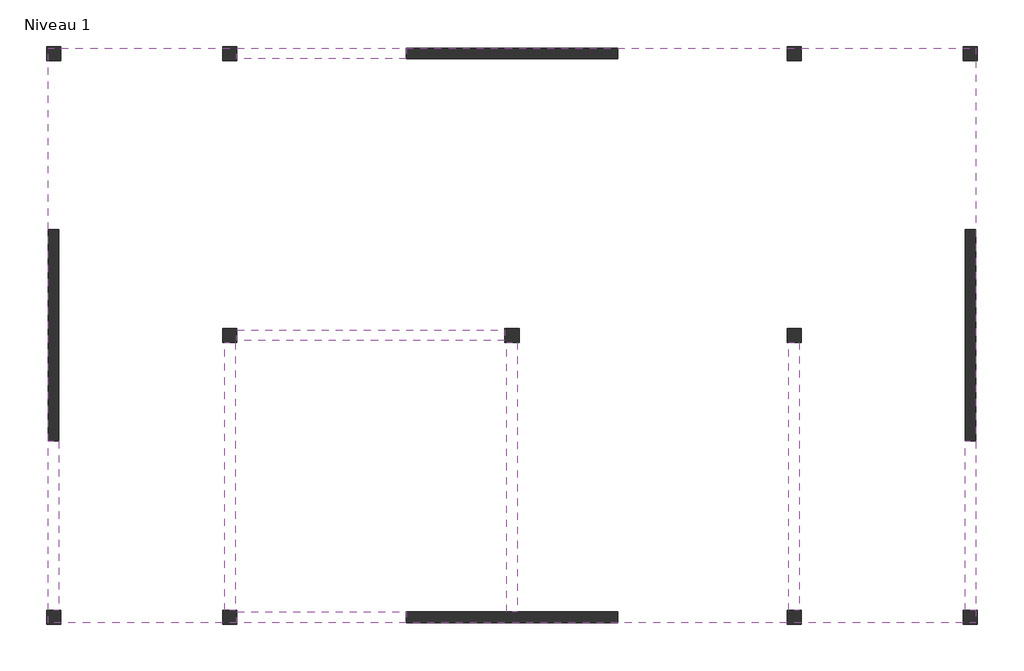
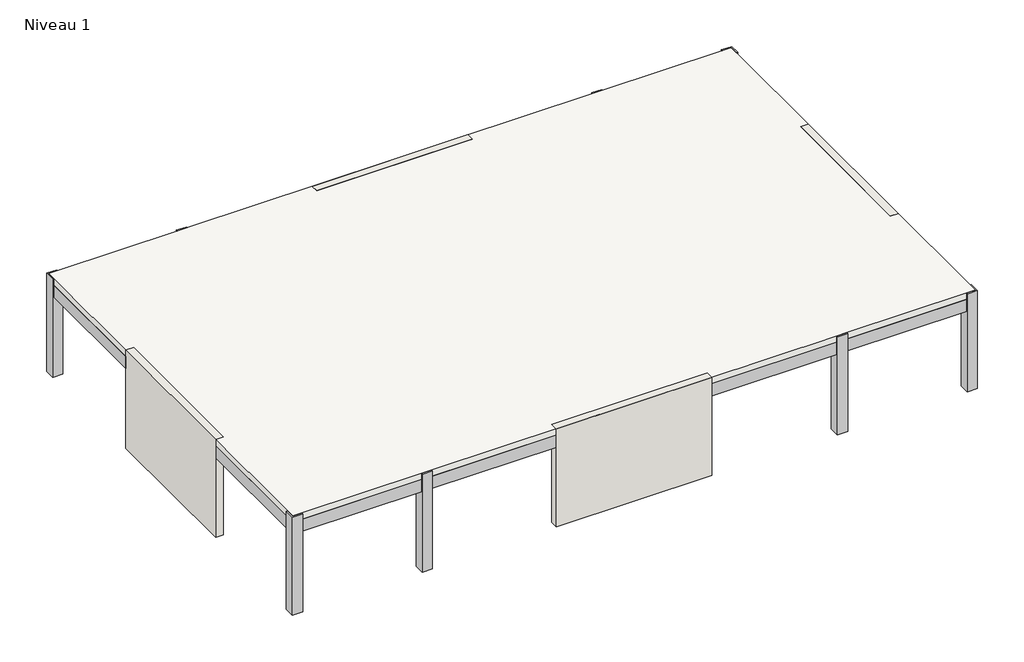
# One storey: 11 columns, 8 beams, 4 walls, 1 slab.
"""IFC4 building model written with IfcOpenShell, lengths in millimetres."""

from ifc_helpers import new_model, si_unit, frame, origin, place, context, project, spatial, polyline, outline, extrude, faceted_brep, element, save

model = new_model("IFC4")

# Units and contexts
model_context = context("Model", 3, world=origin())
ifc_project = project(units=[si_unit("LENGTHUNIT", "METRE", prefix="MILLI")], contexts=[model_context])

# Site, building, storey
site = spatial("IfcSite", under=ifc_project)
building = spatial("IfcBuilding", under=site)
storey = spatial("IfcBuildingStorey", under=building, Name="Niveau 1", Elevation=4000.0)

# Beams
placement = place(None, origin())
element("IfcBeam", 1, ObjectType="Poutre rectangulaire - Béton : 300 x 750 mm", at=placement, inside=storey, context=model_context, shape_type="SweptSolid", body=[
    extrude(outline(polyline([(-16808.6650278, 7952.7596515), (-16508.6650278, 7952.7596515), (-16508.6650278, 3152.7596515), (-16808.6650278, 3152.7596515), (-16808.6650278, 7952.7596515)])), frame((0.0, 0.0, 7250.0), z_axis=(0.0, 0.0, 1.0), x_axis=(1.0, 0.0, 0.0)), (0.0, 0.0, 1.0), 500.0),
    extrude(outline(polyline([(-16508.6650278, -7647.2403485), (-16808.6650278, -7647.2403485), (-16808.6650278, -2847.2403485), (-16508.6650278, -2847.2403485), (-16508.6650278, -7647.2403485)])), frame((0.0, 0.0, 7250.0), z_axis=(0.0, 0.0, 1.0), x_axis=(1.0, 0.0, 0.0)), (0.0, 0.0, 1.0), 500.0),
])
element("IfcBeam", 2, ObjectType="Poutre rectangulaire - Béton : 300 x 750 mm", at=placement, inside=storey, context=model_context, shape_type="SweptSolid", body=[
    extrude(outline(polyline([(-11808.6650278, 7952.7596515), (-11508.6650278, 7952.7596515), (-11508.6650278, 352.7596515), (-11808.6650278, 352.7596515), (-11808.6650278, 7952.7596515)])), frame((0.0, 0.0, 7250.0), z_axis=(0.0, 0.0, 1.0), x_axis=(1.0, 0.0, 0.0)), (0.0, 0.0, 1.0), 500.0),
    extrude(outline(polyline([(-11808.6650278, -47.2403485), (-11508.6650278, -47.2403485), (-11508.6650278, -7647.2403485), (-11808.6650278, -7647.2403485), (-11808.6650278, -47.2403485)])), frame((0.0, 0.0, 7250.0), z_axis=(0.0, 0.0, 1.0), x_axis=(1.0, 0.0, 0.0)), (0.0, 0.0, 1.0), 500.0),
])
element("IfcBeam", 3, ObjectType="Poutre rectangulaire - Béton : 300 x 750 mm", at=placement, inside=storey, context=model_context, shape_type="SweptSolid", body=[
    extrude(outline(polyline([(4491.3349722, 352.7596515), (4191.3349722, 352.7596515), (4191.3349722, 7952.7596515), (4491.3349722, 7952.7596515), (4491.3349722, 352.7596515)])), frame((0.0, 0.0, 7250.0), z_axis=(0.0, 0.0, 1.0), x_axis=(1.0, 0.0, 0.0)), (0.0, 0.0, 1.0), 500.0),
    extrude(outline(polyline([(4491.3349722, -7647.2403485), (4191.3349722, -7647.2403485), (4191.3349722, -47.2403485), (4491.3349722, -47.2403485), (4491.3349722, -7647.2403485)])), frame((0.0, 0.0, 7250.0), z_axis=(0.0, 0.0, 1.0), x_axis=(1.0, 0.0, 0.0)), (0.0, 0.0, 1.0), 500.0),
])
element("IfcBeam", 4, ObjectType="Poutre rectangulaire - Béton : 300 x 750 mm", at=placement, inside=storey, context=model_context, shape_type="SweptSolid", body=[
    extrude(outline(polyline([(9191.3349722, 7952.7596515), (9491.3349722, 7952.7596515), (9491.3349722, 3152.7596515), (9191.3349722, 3152.7596515), (9191.3349722, 7952.7596515)])), frame((0.0, 0.0, 7250.0), z_axis=(0.0, 0.0, 1.0), x_axis=(1.0, 0.0, 0.0)), (0.0, 0.0, 1.0), 500.0),
    extrude(outline(polyline([(9491.3349722, -7647.2403485), (9191.3349722, -7647.2403485), (9191.3349722, -2847.2403485), (9491.3349722, -2847.2403485), (9491.3349722, -7647.2403485)])), frame((0.0, 0.0, 7250.0), z_axis=(0.0, 0.0, 1.0), x_axis=(1.0, 0.0, 0.0)), (0.0, 0.0, 1.0), 500.0),
])
element("IfcBeam", 5, ObjectType="Poutre rectangulaire - Béton : 300 x 750 mm", at=placement, inside=storey, context=model_context, shape_type="SweptSolid", body=[
    extrude(outline(polyline([(9191.3349722, 302.7596515), (9191.3349722, 2.7596515), (4541.3349722, 2.7596515), (4541.3349722, 302.7596515), (9191.3349722, 302.7596515)])), frame((0.0, 0.0, 7250.0), z_axis=(0.0, 0.0, 1.0), x_axis=(1.0, 0.0, 0.0)), (0.0, 0.0, 1.0), 500.0),
    extrude(outline(polyline([(-16508.6650278, 2.7596515), (-16508.6650278, 302.7596515), (-11858.6650278, 302.7596515), (-11858.6650278, 2.7596515), (-16508.6650278, 2.7596515)])), frame((0.0, 0.0, 7250.0), z_axis=(0.0, 0.0, 1.0), x_axis=(1.0, 0.0, 0.0)), (0.0, 0.0, 1.0), 500.0),
    extrude(outline(polyline([(-11458.6650278, 2.7596515), (-11458.6650278, 302.7596515), (-3858.6650278, 302.7596515), (-3858.6650278, 2.7596515), (-11458.6650278, 2.7596515)])), frame((0.0, 0.0, 7250.0), z_axis=(0.0, 0.0, 1.0), x_axis=(1.0, 0.0, 0.0)), (0.0, 0.0, 1.0), 500.0),
    extrude(outline(polyline([(-3458.6650278, 2.7596515), (-3458.6650278, 302.7596515), (4141.3349722, 302.7596515), (4141.3349722, 2.7596515), (-3458.6650278, 2.7596515)])), frame((0.0, 0.0, 7250.0), z_axis=(0.0, 0.0, 1.0), x_axis=(1.0, 0.0, 0.0)), (0.0, 0.0, 1.0), 500.0),
])
element("IfcBeam", 6, ObjectType="Poutre rectangulaire - Béton : 300 x 750 mm", at=placement, inside=storey, context=model_context, shape_type="SweptSolid", body=[
    extrude(outline(polyline([(-3508.6650278, 8002.7596515), (-3508.6650278, 352.7596515), (-3808.6650278, 352.7596515), (-3808.6650278, 8002.7596515), (-3508.6650278, 8002.7596515)])), frame((0.0, 0.0, 7250.0), z_axis=(0.0, 0.0, 1.0), x_axis=(1.0, 0.0, 0.0)), (0.0, 0.0, 1.0), 500.0),
    extrude(outline(polyline([(-3508.6650278, -47.2403485), (-3508.6650278, -7697.2403485), (-3808.6650278, -7697.2403485), (-3808.6650278, -47.2403485), (-3508.6650278, -47.2403485)])), frame((0.0, 0.0, 7250.0), z_axis=(0.0, 0.0, 1.0), x_axis=(1.0, 0.0, 0.0)), (0.0, 0.0, 1.0), 500.0),
])
element("IfcBeam", 7, ObjectType="Poutre rectangulaire - Béton : 300 x 750 mm", at=placement, inside=storey, context=model_context, shape_type="SweptSolid", body=[
    extrude(outline(polyline([(-16458.6650278, -7997.2403485), (-16458.6650278, -7697.2403485), (-11858.6650278, -7697.2403485), (-11858.6650278, -7997.2403485), (-16458.6650278, -7997.2403485)])), frame((0.0, 0.0, 7250.0), z_axis=(0.0, 0.0, 1.0), x_axis=(1.0, 0.0, 0.0)), (0.0, 0.0, 1.0), 500.0),
    extrude(outline(polyline([(-11458.6650278, -7997.2403485), (-11458.6650278, -7697.2403485), (-6658.6650278, -7697.2403485), (-6658.6650278, -7997.2403485), (-11458.6650278, -7997.2403485)])), frame((0.0, 0.0, 7250.0), z_axis=(0.0, 0.0, 1.0), x_axis=(1.0, 0.0, 0.0)), (0.0, 0.0, 1.0), 500.0),
    extrude(outline(polyline([(9141.3349722, -7997.2403485), (4541.3349722, -7997.2403485), (4541.3349722, -7697.2403485), (9141.3349722, -7697.2403485), (9141.3349722, -7997.2403485)])), frame((0.0, 0.0, 7250.0), z_axis=(0.0, 0.0, 1.0), x_axis=(1.0, 0.0, 0.0)), (0.0, 0.0, 1.0), 500.0),
    extrude(outline(polyline([(4141.3349722, -7697.2403485), (4141.3349722, -7997.2403485), (-658.6650278, -7997.2403485), (-658.6650278, -7697.2403485), (4141.3349722, -7697.2403485)])), frame((0.0, 0.0, 7250.0), z_axis=(0.0, 0.0, 1.0), x_axis=(1.0, 0.0, 0.0)), (0.0, 0.0, 1.0), 500.0),
])
element("IfcBeam", 8, ObjectType="Poutre rectangulaire - Béton : 300 x 750 mm", at=placement, inside=storey, context=model_context, shape_type="SweptSolid", body=[
    extrude(outline(polyline([(-11858.6650278, 8002.7596515), (-16458.6650278, 8002.7596515), (-16458.6650278, 8302.7596515), (-11858.6650278, 8302.7596515), (-11858.6650278, 8002.7596515)])), frame((0.0, 0.0, 7250.0), z_axis=(0.0, 0.0, 1.0), x_axis=(1.0, 0.0, 0.0)), (0.0, 0.0, 1.0), 500.0),
    extrude(outline(polyline([(-11458.6650278, 8002.7596515), (-11458.6650278, 8302.7596515), (-6658.6650278, 8302.7596515), (-6658.6650278, 8002.7596515), (-11458.6650278, 8002.7596515)])), frame((0.0, 0.0, 7250.0), z_axis=(0.0, 0.0, 1.0), x_axis=(1.0, 0.0, 0.0)), (0.0, 0.0, 1.0), 500.0),
    extrude(outline(polyline([(9141.3349722, 8002.7596515), (4541.3349722, 8002.7596515), (4541.3349722, 8302.7596515), (9141.3349722, 8302.7596515), (9141.3349722, 8002.7596515)])), frame((0.0, 0.0, 7250.0), z_axis=(0.0, 0.0, 1.0), x_axis=(1.0, 0.0, 0.0)), (0.0, 0.0, 1.0), 500.0),
    extrude(outline(polyline([(4141.3349722, 8302.7596515), (4141.3349722, 8002.7596515), (-658.6650278, 8002.7596515), (-658.6650278, 8302.7596515), (4141.3349722, 8302.7596515)])), frame((0.0, 0.0, 7250.0), z_axis=(0.0, 0.0, 1.0), x_axis=(1.0, 0.0, 0.0)), (0.0, 0.0, 1.0), 500.0),
])

# Columns
element("IfcColumn", 9, ObjectType="Poteau béton - Carré : 400 mm x 400 mm", at=placement, inside=storey, context=model_context, shape_type="Brep", body=[
    faceted_brep([(-16458.6650278, 8352.7596515, 4000.0), (-16458.6650278, 7952.7596515, 4000.0), (-16858.6650278, 7952.7596515, 4000.0), (-16858.6650278, 8352.7596515, 4000.0), (-16458.6650278, 8352.7596515, 8000.0), (-16458.6650278, 8302.7596515, 8000.0), (-16458.6650278, 8302.7596515, 7750.0), (-16458.6650278, 8002.7596515, 7750.0), (-16458.6650278, 7952.7596515, 7750.0), (-16508.6650278, 7952.7596515, 7750.0), (-16808.6650278, 7952.7596515, 7750.0), (-16808.6650278, 7952.7596515, 8000.0), (-16858.6650278, 7952.7596515, 8000.0), (-16858.6650278, 8352.7596515, 8000.0), (-16808.6650278, 8302.7596515, 8000.0), (-16808.6650278, 8302.7596515, 7750.0)], [[[0, 1, 2, 3]], [[1, 0, 4, 5, 6, 7, 8]], [[2, 1, 8, 9, 10, 11, 12]], [[3, 2, 12, 13]], [[0, 3, 13, 4]], [[13, 12, 11, 14, 5, 4]], [[6, 15, 10, 9, 8, 7]], [[15, 14, 11, 10]], [[14, 15, 6, 5]]]),
])
element("IfcColumn", 10, ObjectType="Poteau béton - Carré : 400 mm x 400 mm", at=placement, inside=storey, context=model_context, shape_type="Brep", body=[
    faceted_brep([(-11458.6650278, 8352.7596515, 4000.0), (-11458.6650278, 7952.7596515, 4000.0), (-11858.6650278, 7952.7596515, 4000.0), (-11858.6650278, 8352.7596515, 4000.0), (-11458.6650278, 8352.7596515, 8000.0), (-11458.6650278, 8302.7596515, 8000.0), (-11458.6650278, 8302.7596515, 7750.0), (-11458.6650278, 8002.7596515, 7750.0), (-11458.6650278, 7952.7596515, 7750.0), (-11508.6650278, 7952.7596515, 7750.0), (-11808.6650278, 7952.7596515, 7750.0), (-11858.6650278, 7952.7596515, 7750.0), (-11858.6650278, 8002.7596515, 7750.0), (-11858.6650278, 8302.7596515, 7750.0), (-11858.6650278, 8302.7596515, 8000.0), (-11858.6650278, 8352.7596515, 8000.0)], [[[0, 1, 2, 3]], [[1, 0, 4, 5, 6, 7, 8]], [[2, 1, 8, 9, 10, 11]], [[3, 2, 11, 12, 13, 14, 15]], [[0, 3, 15, 4]], [[4, 15, 14, 5]], [[6, 13, 12, 11, 10, 9, 8, 7]], [[13, 6, 5, 14]]]),
])
element("IfcColumn", 11, ObjectType="Poteau béton - Carré : 400 mm x 400 mm", at=placement, inside=storey, context=model_context, shape_type="Brep", body=[
    faceted_brep([(-11458.6650278, 352.7596515, 4000.0), (-11458.6650278, -47.2403485, 4000.0), (-11858.6650278, -47.2403485, 4000.0), (-11858.6650278, 352.7596515, 4000.0), (-11458.6650278, 352.7596515, 7750.0), (-11458.6650278, 302.7596515, 7750.0), (-11458.6650278, 2.7596515, 7750.0), (-11458.6650278, -47.2403485, 7750.0), (-11508.6650278, -47.2403485, 7750.0), (-11808.6650278, -47.2403485, 7750.0), (-11858.6650278, -47.2403485, 7750.0), (-11858.6650278, 2.7596515, 7750.0), (-11858.6650278, 302.7596515, 7750.0), (-11858.6650278, 352.7596515, 7750.0), (-11808.6650278, 352.7596515, 7750.0), (-11508.6650278, 352.7596515, 7750.0)], [[[0, 1, 2, 3]], [[1, 0, 4, 5, 6, 7]], [[2, 1, 7, 8, 9, 10]], [[3, 2, 10, 11, 12, 13]], [[0, 3, 13, 14, 15, 4]], [[7, 6, 5, 4, 15, 14, 13, 12, 11, 10, 9, 8]]]),
])
element("IfcColumn", 12, ObjectType="Poteau béton - Carré : 400 mm x 400 mm", at=placement, inside=storey, context=model_context, shape_type="Brep", body=[
    faceted_brep([(-3458.6650278, 352.7596515, 4000.0), (-3458.6650278, -47.2403485, 4000.0), (-3858.6650278, -47.2403485, 4000.0), (-3858.6650278, 352.7596515, 4000.0), (-3458.6650278, 352.7596515, 7750.0), (-3458.6650278, 302.7596515, 7750.0), (-3458.6650278, 2.7596515, 7750.0), (-3458.6650278, -47.2403485, 7750.0), (-3508.6650278, -47.2403485, 7750.0), (-3808.6650278, -47.2403485, 7750.0), (-3858.6650278, -47.2403485, 7750.0), (-3858.6650278, 2.7596515, 7750.0), (-3858.6650278, 302.7596515, 7750.0), (-3858.6650278, 352.7596515, 7750.0), (-3808.6650278, 352.7596515, 7750.0), (-3508.6650278, 352.7596515, 7750.0)], [[[0, 1, 2, 3]], [[1, 0, 4, 5, 6, 7]], [[2, 1, 7, 8, 9, 10]], [[3, 2, 10, 11, 12, 13]], [[0, 3, 13, 14, 15, 4]], [[7, 6, 5, 4, 15, 14, 13, 12, 11, 10, 9, 8]]]),
])
element("IfcColumn", 13, ObjectType="Poteau béton - Carré : 400 mm x 400 mm", at=placement, inside=storey, context=model_context, shape_type="Brep", body=[
    faceted_brep([(-16458.6650278, -7647.2403485, 4000.0), (-16458.6650278, -8047.2403485, 4000.0), (-16858.6650278, -8047.2403485, 4000.0), (-16858.6650278, -7647.2403485, 4000.0), (-16458.6650278, -7647.2403485, 7750.0), (-16458.6650278, -7697.2403485, 7750.0), (-16458.6650278, -7997.2403485, 7750.0), (-16458.6650278, -7997.2403485, 8000.0), (-16458.6650278, -8047.2403485, 8000.0), (-16858.6650278, -8047.2403485, 8000.0), (-16858.6650278, -7647.2403485, 8000.0), (-16808.6650278, -7647.2403485, 8000.0), (-16808.6650278, -7647.2403485, 7750.0), (-16508.6650278, -7647.2403485, 7750.0), (-16808.6650278, -7997.2403485, 8000.0), (-16808.6650278, -7997.2403485, 7750.0)], [[[0, 1, 2, 3]], [[1, 0, 4, 5, 6, 7, 8]], [[2, 1, 8, 9]], [[3, 2, 9, 10]], [[0, 3, 10, 11, 12, 13, 4]], [[9, 8, 7, 14, 11, 10]], [[12, 15, 6, 5, 4, 13]], [[15, 14, 7, 6]], [[14, 15, 12, 11]]]),
])
element("IfcColumn", 14, ObjectType="Poteau béton - Carré : 400 mm x 400 mm", at=placement, inside=storey, context=model_context, shape_type="Brep", body=[
    faceted_brep([(-11458.6650278, -7647.2403485, 4000.0), (-11458.6650278, -8047.2403485, 4000.0), (-11858.6650278, -8047.2403485, 4000.0), (-11858.6650278, -7647.2403485, 4000.0), (-11458.6650278, -7647.2403485, 7750.0), (-11458.6650278, -7697.2403485, 7750.0), (-11458.6650278, -7997.2403485, 7750.0), (-11458.6650278, -7997.2403485, 8000.0), (-11458.6650278, -8047.2403485, 8000.0), (-11858.6650278, -8047.2403485, 8000.0), (-11858.6650278, -7997.2403485, 8000.0), (-11858.6650278, -7997.2403485, 7750.0), (-11858.6650278, -7697.2403485, 7750.0), (-11858.6650278, -7647.2403485, 7750.0), (-11808.6650278, -7647.2403485, 7750.0), (-11508.6650278, -7647.2403485, 7750.0)], [[[0, 1, 2, 3]], [[1, 0, 4, 5, 6, 7, 8]], [[2, 1, 8, 9]], [[3, 2, 9, 10, 11, 12, 13]], [[0, 3, 13, 14, 15, 4]], [[9, 8, 7, 10]], [[11, 6, 5, 4, 15, 14, 13, 12]], [[6, 11, 10, 7]]]),
])
element("IfcColumn", 15, ObjectType="Poteau béton - Carré : 400 mm x 400 mm", at=placement, inside=storey, context=model_context, shape_type="Brep", body=[
    faceted_brep([(4541.3349722, -7647.2403485, 4000.0), (4541.3349722, -8047.2403485, 4000.0), (4141.3349722, -8047.2403485, 4000.0), (4141.3349722, -7647.2403485, 4000.0), (4541.3349722, -7647.2403485, 7750.0), (4541.3349722, -7697.2403485, 7750.0), (4541.3349722, -7997.2403485, 7750.0), (4541.3349722, -7997.2403485, 8000.0), (4541.3349722, -8047.2403485, 8000.0), (4141.3349722, -8047.2403485, 8000.0), (4141.3349722, -7997.2403485, 8000.0), (4141.3349722, -7997.2403485, 7750.0), (4141.3349722, -7697.2403485, 7750.0), (4141.3349722, -7647.2403485, 7750.0), (4191.3349722, -7647.2403485, 7750.0), (4491.3349722, -7647.2403485, 7750.0)], [[[0, 1, 2, 3]], [[1, 0, 4, 5, 6, 7, 8]], [[2, 1, 8, 9]], [[3, 2, 9, 10, 11, 12, 13]], [[0, 3, 13, 14, 15, 4]], [[9, 8, 7, 10]], [[11, 6, 5, 4, 15, 14, 13, 12]], [[6, 11, 10, 7]]]),
])
element("IfcColumn", 16, ObjectType="Poteau béton - Carré : 400 mm x 400 mm", at=placement, inside=storey, context=model_context, shape_type="Brep", body=[
    faceted_brep([(9541.3349722, -7647.2403485, 4000.0), (9541.3349722, -8047.2403485, 4000.0), (9141.3349722, -8047.2403485, 4000.0), (9141.3349722, -7647.2403485, 4000.0), (9541.3349722, -7647.2403485, 8000.0), (9541.3349722, -8047.2403485, 8000.0), (9141.3349722, -8047.2403485, 8000.0), (9141.3349722, -7997.2403485, 8000.0), (9141.3349722, -7997.2403485, 7750.0), (9141.3349722, -7697.2403485, 7750.0), (9141.3349722, -7647.2403485, 7750.0), (9191.3349722, -7647.2403485, 7750.0), (9491.3349722, -7647.2403485, 7750.0), (9491.3349722, -7647.2403485, 8000.0), (9491.3349722, -7997.2403485, 8000.0), (9491.3349722, -7997.2403485, 7750.0)], [[[0, 1, 2, 3]], [[1, 0, 4, 5]], [[2, 1, 5, 6]], [[3, 2, 6, 7, 8, 9, 10]], [[0, 3, 10, 11, 12, 13, 4]], [[5, 4, 13, 14, 7, 6]], [[15, 12, 11, 10, 9, 8]], [[14, 15, 8, 7]], [[15, 14, 13, 12]]]),
])
element("IfcColumn", 17, ObjectType="Poteau béton - Carré : 400 mm x 400 mm", at=placement, inside=storey, context=model_context, shape_type="Brep", body=[
    faceted_brep([(4541.3349722, 352.7596515, 4000.0), (4541.3349722, -47.2403485, 4000.0), (4141.3349722, -47.2403485, 4000.0), (4141.3349722, 352.7596515, 4000.0), (4541.3349722, 352.7596515, 7750.0), (4541.3349722, 302.7596515, 7750.0), (4541.3349722, 2.7596515, 7750.0), (4541.3349722, -47.2403485, 7750.0), (4491.3349722, -47.2403485, 7750.0), (4191.3349722, -47.2403485, 7750.0), (4141.3349722, -47.2403485, 7750.0), (4141.3349722, 2.7596515, 7750.0), (4141.3349722, 302.7596515, 7750.0), (4141.3349722, 352.7596515, 7750.0), (4191.3349722, 352.7596515, 7750.0), (4491.3349722, 352.7596515, 7750.0)], [[[0, 1, 2, 3]], [[1, 0, 4, 5, 6, 7]], [[2, 1, 7, 8, 9, 10]], [[3, 2, 10, 11, 12, 13]], [[0, 3, 13, 14, 15, 4]], [[7, 6, 5, 4, 15, 14, 13, 12, 11, 10, 9, 8]]]),
])
element("IfcColumn", 18, ObjectType="Poteau béton - Carré : 400 mm x 400 mm", at=placement, inside=storey, context=model_context, shape_type="Brep", body=[
    faceted_brep([(4541.3349722, 8352.7596515, 4000.0), (4541.3349722, 7952.7596515, 4000.0), (4141.3349722, 7952.7596515, 4000.0), (4141.3349722, 8352.7596515, 4000.0), (4541.3349722, 8352.7596515, 8000.0), (4541.3349722, 8302.7596515, 8000.0), (4541.3349722, 8302.7596515, 7750.0), (4541.3349722, 8002.7596515, 7750.0), (4541.3349722, 7952.7596515, 7750.0), (4491.3349722, 7952.7596515, 7750.0), (4191.3349722, 7952.7596515, 7750.0), (4141.3349722, 7952.7596515, 7750.0), (4141.3349722, 8002.7596515, 7750.0), (4141.3349722, 8302.7596515, 7750.0), (4141.3349722, 8302.7596515, 8000.0), (4141.3349722, 8352.7596515, 8000.0)], [[[0, 1, 2, 3]], [[1, 0, 4, 5, 6, 7, 8]], [[2, 1, 8, 9, 10, 11]], [[3, 2, 11, 12, 13, 14, 15]], [[0, 3, 15, 4]], [[4, 15, 14, 5]], [[6, 13, 12, 11, 10, 9, 8, 7]], [[13, 6, 5, 14]]]),
])
element("IfcColumn", 19, ObjectType="Poteau béton - Carré : 400 mm x 400 mm", at=placement, inside=storey, context=model_context, shape_type="Brep", body=[
    faceted_brep([(9541.3349722, 8352.7596515, 4000.0), (9541.3349722, 7952.7596515, 4000.0), (9141.3349722, 7952.7596515, 4000.0), (9141.3349722, 8352.7596515, 4000.0), (9541.3349722, 8352.7596515, 8000.0), (9541.3349722, 7952.7596515, 8000.0), (9491.3349722, 7952.7596515, 8000.0), (9491.3349722, 7952.7596515, 7750.0), (9191.3349722, 7952.7596515, 7750.0), (9141.3349722, 7952.7596515, 7750.0), (9141.3349722, 8002.7596515, 7750.0), (9141.3349722, 8302.7596515, 7750.0), (9141.3349722, 8302.7596515, 8000.0), (9141.3349722, 8352.7596515, 8000.0), (9491.3349722, 8302.7596515, 8000.0), (9491.3349722, 8302.7596515, 7750.0)], [[[0, 1, 2, 3]], [[1, 0, 4, 5]], [[2, 1, 5, 6, 7, 8, 9]], [[3, 2, 9, 10, 11, 12, 13]], [[0, 3, 13, 4]], [[5, 4, 13, 12, 14, 6]], [[7, 15, 11, 10, 9, 8]], [[15, 14, 12, 11]], [[14, 15, 7, 6]]]),
])

# Slab
element("IfcSlab", 20, ObjectType="Dalle en béton - 250 mm", at=placement, inside=storey, context=model_context, shape_type="Brep", body=[
    faceted_brep([(9491.3349722, -7997.2403485, 7750.0), (9141.3349722, -7997.2403485, 7750.0), (4541.3349722, -7997.2403485, 7750.0), (4141.3349722, -7997.2403485, 7750.0), (-658.6650278, -7997.2403485, 7750.0), (-6658.6650278, -7997.2403485, 7750.0), (-11458.6650278, -7997.2403485, 7750.0), (-11858.6650278, -7997.2403485, 7750.0), (-16458.6650278, -7997.2403485, 7750.0), (-16808.6650278, -7997.2403485, 7750.0), (-16808.6650278, -7647.2403485, 7750.0), (-16808.6650278, -2847.2403485, 7750.0), (-16808.6650278, 3152.7596515, 7750.0), (-16808.6650278, 7952.7596515, 7750.0), (-16808.6650278, 8302.7596515, 7750.0), (-16458.6650278, 8302.7596515, 7750.0), (-11858.6650278, 8302.7596515, 7750.0), (-11458.6650278, 8302.7596515, 7750.0), (-6658.6650278, 8302.7596515, 7750.0), (-658.6650278, 8302.7596515, 7750.0), (4141.3349722, 8302.7596515, 7750.0), (4541.3349722, 8302.7596515, 7750.0), (9141.3349722, 8302.7596515, 7750.0), (9491.3349722, 8302.7596515, 7750.0), (9491.3349722, 7952.7596515, 7750.0), (9491.3349722, 3152.7596515, 7750.0), (9491.3349722, -2847.2403485, 7750.0), (9491.3349722, -7647.2403485, 7750.0), (9491.3349722, -7997.2403485, 8000.0), (9491.3349722, -7647.2403485, 8000.0), (9491.3349722, 7952.7596515, 8000.0), (9491.3349722, 8302.7596515, 8000.0), (9141.3349722, 8302.7596515, 8000.0), (4541.3349722, 8302.7596515, 8000.0), (4141.3349722, 8302.7596515, 8000.0), (-11458.6650278, 8302.7596515, 8000.0), (-11858.6650278, 8302.7596515, 8000.0), (-16458.6650278, 8302.7596515, 8000.0), (-16808.6650278, 8302.7596515, 8000.0), (-16808.6650278, 7952.7596515, 8000.0), (-16808.6650278, -7647.2403485, 8000.0), (-16808.6650278, -7997.2403485, 8000.0), (-16458.6650278, -7997.2403485, 8000.0), (-11858.6650278, -7997.2403485, 8000.0), (-11458.6650278, -7997.2403485, 8000.0), (4141.3349722, -7997.2403485, 8000.0), (4541.3349722, -7997.2403485, 8000.0), (9141.3349722, -7997.2403485, 8000.0)], [[[0, 1, 2, 3, 4, 5, 6, 7, 8, 9, 10, 11, 12, 13, 14, 15, 16, 17, 18, 19, 20, 21, 22, 23, 24, 25, 26, 27]], [[28, 29, 30, 31, 32, 33, 34, 35, 36, 37, 38, 39, 40, 41, 42, 43, 44, 45, 46, 47]], [[9, 8, 7, 6, 5, 4, 3, 2, 1, 0, 28, 47, 46, 45, 44, 43, 42, 41]], [[14, 13, 12, 11, 10, 9, 41, 40, 39, 38]], [[23, 22, 21, 20, 19, 18, 17, 16, 15, 14, 38, 37, 36, 35, 34, 33, 32, 31]], [[0, 27, 26, 25, 24, 23, 31, 30, 29, 28]]]),
])

# Walls
element("IfcWall", 21, ObjectType="Ext. Voile BA 30", at=placement, inside=storey, context=model_context, shape_type="Brep", body=[
    faceted_brep([(-6658.6650278, 8002.7596515, 4000.0), (-658.6650278, 8002.7596515, 4000.0), (-658.6650278, 8002.7596515, 7250.0), (-658.6650278, 8002.7596515, 7750.0), (-658.6650278, 8002.7596515, 8000.0), (-6658.6650278, 8002.7596515, 8000.0), (-6658.6650278, 8002.7596515, 7750.0), (-6658.6650278, 8002.7596515, 7250.0), (-6658.6650278, 8302.7596515, 4000.0), (-6658.6650278, 8302.7596515, 7250.0), (-6658.6650278, 8302.7596515, 7750.0), (-6658.6650278, 8302.7596515, 8000.0), (-658.6650278, 8302.7596515, 8000.0), (-658.6650278, 8302.7596515, 7750.0), (-658.6650278, 8302.7596515, 7250.0), (-658.6650278, 8302.7596515, 4000.0)], [[[0, 1, 2, 3, 4, 5, 6, 7]], [[8, 9, 10, 11, 12, 13, 14, 15]], [[1, 0, 8, 15]], [[4, 3, 2, 1, 15, 14, 13, 12]], [[5, 4, 12, 11]], [[0, 7, 6, 5, 11, 10, 9, 8]]]),
])
element("IfcWall", 22, ObjectType="Ext. Voile BA 30", at=placement, inside=storey, context=model_context, shape_type="Brep", body=[
    faceted_brep([(-6658.6650278, -7997.2403485, 4000.0), (-658.6650278, -7997.2403485, 4000.0), (-658.6650278, -7997.2403485, 7250.0), (-658.6650278, -7997.2403485, 7750.0), (-658.6650278, -7997.2403485, 8000.0), (-6658.6650278, -7997.2403485, 8000.0), (-6658.6650278, -7997.2403485, 7750.0), (-6658.6650278, -7997.2403485, 7250.0), (-6658.6650278, -7697.2403485, 4000.0), (-6658.6650278, -7697.2403485, 7250.0), (-6658.6650278, -7697.2403485, 7750.0), (-6658.6650278, -7697.2403485, 8000.0), (-658.6650278, -7697.2403485, 8000.0), (-658.6650278, -7697.2403485, 7750.0), (-658.6650278, -7697.2403485, 7250.0), (-658.6650278, -7697.2403485, 4000.0)], [[[0, 1, 2, 3, 4, 5, 6, 7]], [[8, 9, 10, 11, 12, 13, 14, 15]], [[1, 0, 8, 15]], [[4, 3, 2, 1, 15, 14, 13, 12]], [[5, 4, 12, 11]], [[0, 7, 6, 5, 11, 10, 9, 8]]]),
])
element("IfcWall", 23, ObjectType="Ext. Voile BA 30", at=placement, inside=storey, context=model_context, shape_type="Brep", body=[
    faceted_brep([(-16508.6650278, -2847.2403485, 4000.0), (-16508.6650278, 3152.7596515, 4000.0), (-16508.6650278, 3152.7596515, 7250.0), (-16508.6650278, 3152.7596515, 7750.0), (-16508.6650278, 3152.7596515, 8000.0), (-16508.6650278, -2847.2403485, 8000.0), (-16508.6650278, -2847.2403485, 7750.0), (-16508.6650278, -2847.2403485, 7250.0), (-16808.6650278, -2847.2403485, 4000.0), (-16808.6650278, -2847.2403485, 7250.0), (-16808.6650278, -2847.2403485, 7750.0), (-16808.6650278, -2847.2403485, 8000.0), (-16808.6650278, 3152.7596515, 8000.0), (-16808.6650278, 3152.7596515, 7750.0), (-16808.6650278, 3152.7596515, 7250.0), (-16808.6650278, 3152.7596515, 4000.0)], [[[0, 1, 2, 3, 4, 5, 6, 7]], [[8, 9, 10, 11, 12, 13, 14, 15]], [[1, 0, 8, 15]], [[4, 3, 2, 1, 15, 14, 13, 12]], [[5, 4, 12, 11]], [[0, 7, 6, 5, 11, 10, 9, 8]]]),
])
element("IfcWall", 24, ObjectType="Ext. Voile BA 30", at=placement, inside=storey, context=model_context, shape_type="Brep", body=[
    faceted_brep([(9491.3349722, -2847.2403485, 4000.0), (9491.3349722, 3152.7596515, 4000.0), (9491.3349722, 3152.7596515, 7250.0), (9491.3349722, 3152.7596515, 7750.0), (9491.3349722, 3152.7596515, 8000.0), (9491.3349722, -2847.2403485, 8000.0), (9491.3349722, -2847.2403485, 7750.0), (9491.3349722, -2847.2403485, 7250.0), (9191.3349722, -2847.2403485, 4000.0), (9191.3349722, -2847.2403485, 7250.0), (9191.3349722, -2847.2403485, 7750.0), (9191.3349722, -2847.2403485, 8000.0), (9191.3349722, 3152.7596515, 8000.0), (9191.3349722, 3152.7596515, 7750.0), (9191.3349722, 3152.7596515, 7250.0), (9191.3349722, 3152.7596515, 4000.0)], [[[0, 1, 2, 3, 4, 5, 6, 7]], [[8, 9, 10, 11, 12, 13, 14, 15]], [[1, 0, 8, 15]], [[4, 3, 2, 1, 15, 14, 13, 12]], [[5, 4, 12, 11]], [[0, 7, 6, 5, 11, 10, 9, 8]]]),
])

save(model, "model.ifc")
